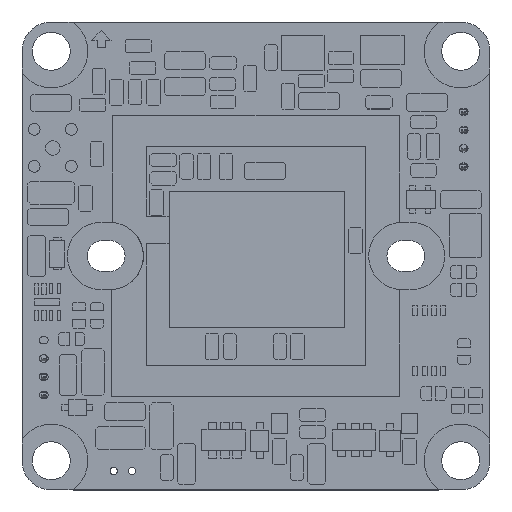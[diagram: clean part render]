
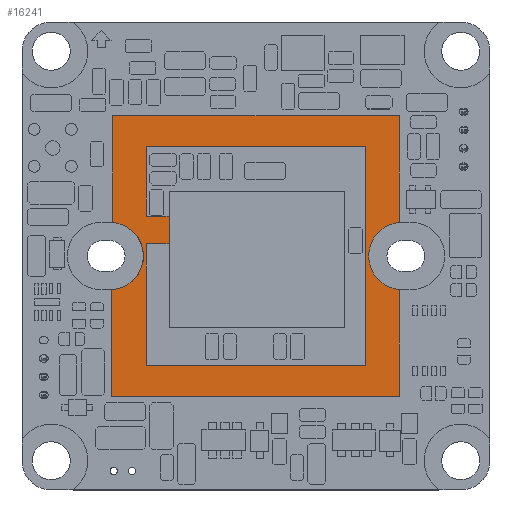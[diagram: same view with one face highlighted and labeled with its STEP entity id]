
A CAD part, top view. The second image highlights one B-rep face of the part: STEP entity #16241.
In plain terms, the highlighted planar face has unit normal (0, 0, 1).
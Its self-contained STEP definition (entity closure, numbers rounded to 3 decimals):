
#16214 = VERTEX_POINT('',#16215);
#16215 = CARTESIAN_POINT('',(10.,-2.3,1.15));
#16223 = VERTEX_POINT('',#16224);
#16224 = CARTESIAN_POINT('',(10.,2.3,1.15));
#16230 = EDGE_CURVE('',#16223,#16214,#16231,.T.);
#16231 = CIRCLE('',#16232,2.3);
#16232 = AXIS2_PLACEMENT_3D('',#16233,#16234,#16235);
#16233 = CARTESIAN_POINT('',(10.,0.,1.15));
#16234 = DIRECTION('',(0.,-0.,1.));
#16235 = DIRECTION('',(0.,1.,0.));
#16241 = ADVANCED_FACE('',(#16242,#16324),#16390,.T.);
#16242 = FACE_BOUND('',#16243,.F.);
#16243 = EDGE_LOOP('',(#16244,#16245,#16253,#16261,#16269,#16277,#16286,
    #16294,#16302,#16310,#16318));
#16244 = ORIENTED_EDGE('',*,*,#16230,.T.);
#16245 = ORIENTED_EDGE('',*,*,#16246,.F.);
#16246 = EDGE_CURVE('',#16247,#16214,#16249,.T.);
#16247 = VERTEX_POINT('',#16248);
#16248 = CARTESIAN_POINT('',(9.8,-2.3,1.15));
#16249 = LINE('',#16250,#16251);
#16250 = CARTESIAN_POINT('',(9.8,-2.3,1.15));
#16251 = VECTOR('',#16252,1.);
#16252 = DIRECTION('',(1.,0.,0.));
#16253 = ORIENTED_EDGE('',*,*,#16254,.F.);
#16254 = EDGE_CURVE('',#16255,#16247,#16257,.T.);
#16255 = VERTEX_POINT('',#16256);
#16256 = CARTESIAN_POINT('',(9.8,-9.6,1.15));
#16257 = LINE('',#16258,#16259);
#16258 = CARTESIAN_POINT('',(9.8,-9.6,1.15));
#16259 = VECTOR('',#16260,1.);
#16260 = DIRECTION('',(0.,1.,0.));
#16261 = ORIENTED_EDGE('',*,*,#16262,.F.);
#16262 = EDGE_CURVE('',#16263,#16255,#16265,.T.);
#16263 = VERTEX_POINT('',#16264);
#16264 = CARTESIAN_POINT('',(-9.9,-9.6,1.15));
#16265 = LINE('',#16266,#16267);
#16266 = CARTESIAN_POINT('',(-9.9,-9.6,1.15));
#16267 = VECTOR('',#16268,1.);
#16268 = DIRECTION('',(1.,0.,0.));
#16269 = ORIENTED_EDGE('',*,*,#16270,.F.);
#16270 = EDGE_CURVE('',#16271,#16263,#16273,.T.);
#16271 = VERTEX_POINT('',#16272);
#16272 = CARTESIAN_POINT('',(-9.9,-2.299,1.15));
#16273 = LINE('',#16274,#16275);
#16274 = CARTESIAN_POINT('',(-9.9,-2.299,1.15));
#16275 = VECTOR('',#16276,1.);
#16276 = DIRECTION('',(0.,-1.,0.));
#16277 = ORIENTED_EDGE('',*,*,#16278,.T.);
#16278 = EDGE_CURVE('',#16271,#16279,#16281,.T.);
#16279 = VERTEX_POINT('',#16280);
#16280 = CARTESIAN_POINT('',(-10.,2.3,1.15));
#16281 = CIRCLE('',#16282,2.3);
#16282 = AXIS2_PLACEMENT_3D('',#16283,#16284,#16285);
#16283 = CARTESIAN_POINT('',(-10.,0.,1.15));
#16284 = DIRECTION('',(0.,0.,1.));
#16285 = DIRECTION('',(0.043,-0.999,0.));
#16286 = ORIENTED_EDGE('',*,*,#16287,.F.);
#16287 = EDGE_CURVE('',#16288,#16279,#16290,.T.);
#16288 = VERTEX_POINT('',#16289);
#16289 = CARTESIAN_POINT('',(-9.8,2.3,1.15));
#16290 = LINE('',#16291,#16292);
#16291 = CARTESIAN_POINT('',(-9.8,2.3,1.15));
#16292 = VECTOR('',#16293,1.);
#16293 = DIRECTION('',(-1.,0.,0.));
#16294 = ORIENTED_EDGE('',*,*,#16295,.F.);
#16295 = EDGE_CURVE('',#16296,#16288,#16298,.T.);
#16296 = VERTEX_POINT('',#16297);
#16297 = CARTESIAN_POINT('',(-9.8,9.6,1.15));
#16298 = LINE('',#16299,#16300);
#16299 = CARTESIAN_POINT('',(-9.8,9.6,1.15));
#16300 = VECTOR('',#16301,1.);
#16301 = DIRECTION('',(0.,-1.,0.));
#16302 = ORIENTED_EDGE('',*,*,#16303,.F.);
#16303 = EDGE_CURVE('',#16304,#16296,#16306,.T.);
#16304 = VERTEX_POINT('',#16305);
#16305 = CARTESIAN_POINT('',(9.8,9.6,1.15));
#16306 = LINE('',#16307,#16308);
#16307 = CARTESIAN_POINT('',(9.8,9.6,1.15));
#16308 = VECTOR('',#16309,1.);
#16309 = DIRECTION('',(-1.,0.,0.));
#16310 = ORIENTED_EDGE('',*,*,#16311,.F.);
#16311 = EDGE_CURVE('',#16312,#16304,#16314,.T.);
#16312 = VERTEX_POINT('',#16313);
#16313 = CARTESIAN_POINT('',(9.8,2.3,1.15));
#16314 = LINE('',#16315,#16316);
#16315 = CARTESIAN_POINT('',(9.8,2.3,1.15));
#16316 = VECTOR('',#16317,1.);
#16317 = DIRECTION('',(0.,1.,0.));
#16318 = ORIENTED_EDGE('',*,*,#16319,.F.);
#16319 = EDGE_CURVE('',#16223,#16312,#16320,.T.);
#16320 = LINE('',#16321,#16322);
#16321 = CARTESIAN_POINT('',(10.,2.3,1.15));
#16322 = VECTOR('',#16323,1.);
#16323 = DIRECTION('',(-1.,0.,0.));
#16324 = FACE_BOUND('',#16325,.F.);
#16325 = EDGE_LOOP('',(#16326,#16336,#16344,#16352,#16360,#16368,#16376,
    #16384));
#16326 = ORIENTED_EDGE('',*,*,#16327,.F.);
#16327 = EDGE_CURVE('',#16328,#16330,#16332,.T.);
#16328 = VERTEX_POINT('',#16329);
#16329 = CARTESIAN_POINT('',(7.5,-7.5,1.15));
#16330 = VERTEX_POINT('',#16331);
#16331 = CARTESIAN_POINT('',(-7.5,-7.5,1.15));
#16332 = LINE('',#16333,#16334);
#16333 = CARTESIAN_POINT('',(7.5,-7.5,1.15));
#16334 = VECTOR('',#16335,1.);
#16335 = DIRECTION('',(-1.,0.,0.));
#16336 = ORIENTED_EDGE('',*,*,#16337,.F.);
#16337 = EDGE_CURVE('',#16338,#16328,#16340,.T.);
#16338 = VERTEX_POINT('',#16339);
#16339 = CARTESIAN_POINT('',(7.5,7.5,1.15));
#16340 = LINE('',#16341,#16342);
#16341 = CARTESIAN_POINT('',(7.5,7.5,1.15));
#16342 = VECTOR('',#16343,1.);
#16343 = DIRECTION('',(0.,-1.,0.));
#16344 = ORIENTED_EDGE('',*,*,#16345,.F.);
#16345 = EDGE_CURVE('',#16346,#16338,#16348,.T.);
#16346 = VERTEX_POINT('',#16347);
#16347 = CARTESIAN_POINT('',(-7.5,7.5,1.15));
#16348 = LINE('',#16349,#16350);
#16349 = CARTESIAN_POINT('',(-7.5,7.5,1.15));
#16350 = VECTOR('',#16351,1.);
#16351 = DIRECTION('',(1.,0.,0.));
#16352 = ORIENTED_EDGE('',*,*,#16353,.F.);
#16353 = EDGE_CURVE('',#16354,#16346,#16356,.T.);
#16354 = VERTEX_POINT('',#16355);
#16355 = CARTESIAN_POINT('',(-7.5,2.718,1.15));
#16356 = LINE('',#16357,#16358);
#16357 = CARTESIAN_POINT('',(-7.5,2.718,1.15));
#16358 = VECTOR('',#16359,1.);
#16359 = DIRECTION('',(0.,1.,0.));
#16360 = ORIENTED_EDGE('',*,*,#16361,.F.);
#16361 = EDGE_CURVE('',#16362,#16354,#16364,.T.);
#16362 = VERTEX_POINT('',#16363);
#16363 = CARTESIAN_POINT('',(-5.942,2.718,1.15));
#16364 = LINE('',#16365,#16366);
#16365 = CARTESIAN_POINT('',(-5.942,2.718,1.15));
#16366 = VECTOR('',#16367,1.);
#16367 = DIRECTION('',(-1.,0.,0.));
#16368 = ORIENTED_EDGE('',*,*,#16369,.F.);
#16369 = EDGE_CURVE('',#16370,#16362,#16372,.T.);
#16370 = VERTEX_POINT('',#16371);
#16371 = CARTESIAN_POINT('',(-5.942,0.829,1.15));
#16372 = LINE('',#16373,#16374);
#16373 = CARTESIAN_POINT('',(-5.942,0.829,1.15));
#16374 = VECTOR('',#16375,1.);
#16375 = DIRECTION('',(0.,1.,0.));
#16376 = ORIENTED_EDGE('',*,*,#16377,.F.);
#16377 = EDGE_CURVE('',#16378,#16370,#16380,.T.);
#16378 = VERTEX_POINT('',#16379);
#16379 = CARTESIAN_POINT('',(-7.5,0.829,1.15));
#16380 = LINE('',#16381,#16382);
#16381 = CARTESIAN_POINT('',(-7.5,0.829,1.15));
#16382 = VECTOR('',#16383,1.);
#16383 = DIRECTION('',(1.,0.,0.));
#16384 = ORIENTED_EDGE('',*,*,#16385,.F.);
#16385 = EDGE_CURVE('',#16330,#16378,#16386,.T.);
#16386 = LINE('',#16387,#16388);
#16387 = CARTESIAN_POINT('',(-7.5,-7.5,1.15));
#16388 = VECTOR('',#16389,1.);
#16389 = DIRECTION('',(0.,1.,0.));
#16390 = PLANE('',#16391);
#16391 = AXIS2_PLACEMENT_3D('',#16392,#16393,#16394);
#16392 = CARTESIAN_POINT('',(0.,0.,1.15));
#16393 = DIRECTION('',(0.,0.,1.));
#16394 = DIRECTION('',(1.,0.,-0.));
